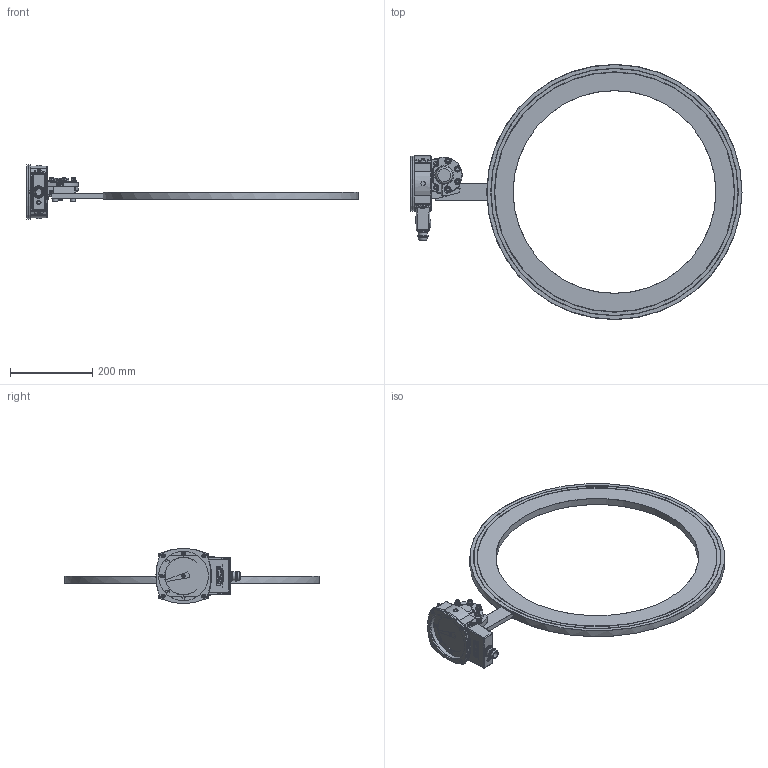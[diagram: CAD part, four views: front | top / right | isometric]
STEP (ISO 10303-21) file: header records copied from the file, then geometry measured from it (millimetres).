
FILE_DESCRIPTION(/* description */ ('Alibre Inc.'),/* implementation_level */ '2;1');
FILE_NAME(/* name */ 'export0',/* time_stamp */ '2012-10-19T13:42:42+02:00',/* author */ (''),/* organization */ (''),/* preprocessor_version */ 'ST-DEVELOPER v14',/* originating_system */ 'Alibre',/* authorisation */ '');
FILE_SCHEMA (('CONFIG_CONTROL_DESIGN'));
Length unit declared in the file: centimetre
Products named in the file (19): ID_1; ID_2; ID_3; ID_4; ID_5; ID_6; ID_7; ID_8; ID_9; ID_10; ID_11; ID_12; ID_13; ID_14; ID_15
Bounding box: 805.93 x 619 x 132.56 mm (x, y, z)
Volume: 2472611.2 mm3; surface area: 516858.6 mm2
Topology: 31 solids, 31 shells, 1720 faces, 4140 edges, 2551 vertices
Faces by surface type: plane 762, bspline 365, cylinder 322, torus 158, cone 87, sphere 26
Full cylindrical faces by diameter (mm): 3.9 x2, 5 x18, 5.2 x2, 5.5 x5, 5.541 x2, 6 x28, 6.35 x2, 6.5 x7, 8 x7, 8.5 x2, 9.6 x6, 10 x11, 10.5 x1, 12 x3, 13 x2, 14 x3, 16 x1, 19.5 x1, 22 x2, 22.5 x4, 25 x1, 29 x1, 31 x1, 120.5 x3, 123.4 x1, 129 x1, 492 x1, 582 x2, 583 x2, 600 x2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
Entity records: 60441 total; most frequent: CARTESIAN_POINT 28535, ORIENTED_EDGE 6448, DIRECTION 4830, EDGE_CURVE 3224, VERTEX_POINT 2110, AXIS2_PLACEMENT_3D 2015, EDGE_LOOP 1786, FACE_BOUND 1786
